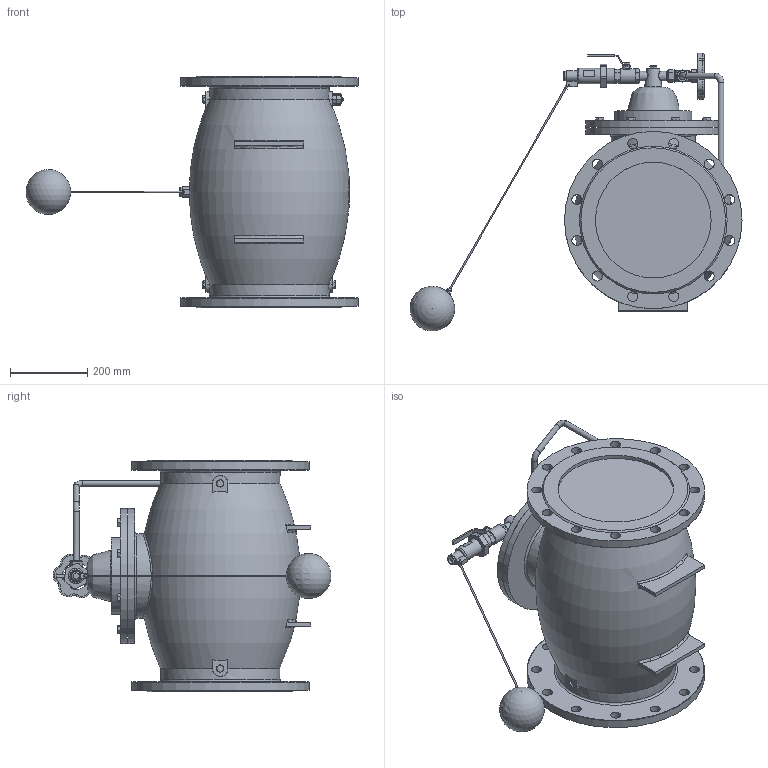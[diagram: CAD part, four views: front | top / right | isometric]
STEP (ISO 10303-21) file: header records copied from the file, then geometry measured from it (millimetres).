
FILE_DESCRIPTION(('STEP AP214'), '1');
FILE_NAME('PVF8-1331RR-F Ðåãóëÿòîð ïèëîòíîãî òèïà ïîïëàâêîâûé DN.ru Äó250 Ðó16', '', ('UNSPECIFIED'), ('UNSPECIFIED'), 'C3D Converter', 'C3D Toolkit', '');
FILE_SCHEMA(('AUTOMOTIVE_DESIGN { 1 0 10303 214 3 1 1}'));
Length unit declared in the file: millimetre
Products named in the file (1): PVF8-1331RR-F
Bounding box: 860.51 x 720.38 x 600 mm (x, y, z)
Volume: 74293678.2 mm3; surface area: 1787560.1 mm2
Topology: 1 solids, 2 shells, 683 faces, 1688 edges, 1073 vertices
Faces by surface type: plane 382, cylinder 145, cone 75, torus 42, extrusion 29, bspline 9, sphere 1
Full cylindrical faces by diameter (mm): 4 x3, 8 x1, 9 x1, 9.22 x1, 12 x12, 15 x3, 15.875 x2, 16 x2, 18 x3, 19.05 x3, 21.514 x1, 23.673 x3, 24 x1, 25 x2, 25.364 x3, 25.4 x1, 26 x24, 28.067 x3, 38.495 x1, 40 x2, 47.768 x1, 200 x1, 219 x1, 256 x1, 300 x2, 310 x2, 350 x2, 460 x2
Entity records: 34089 total; most frequent: CARTESIAN_POINT 17221, ORIENTED_EDGE 3090, DIRECTION 3017, EDGE_CURVE 1545, AXIS2_PLACEMENT_3D 1142, VERTEX_POINT 1053, EDGE_LOOP 942, FACE_BOUND 765
